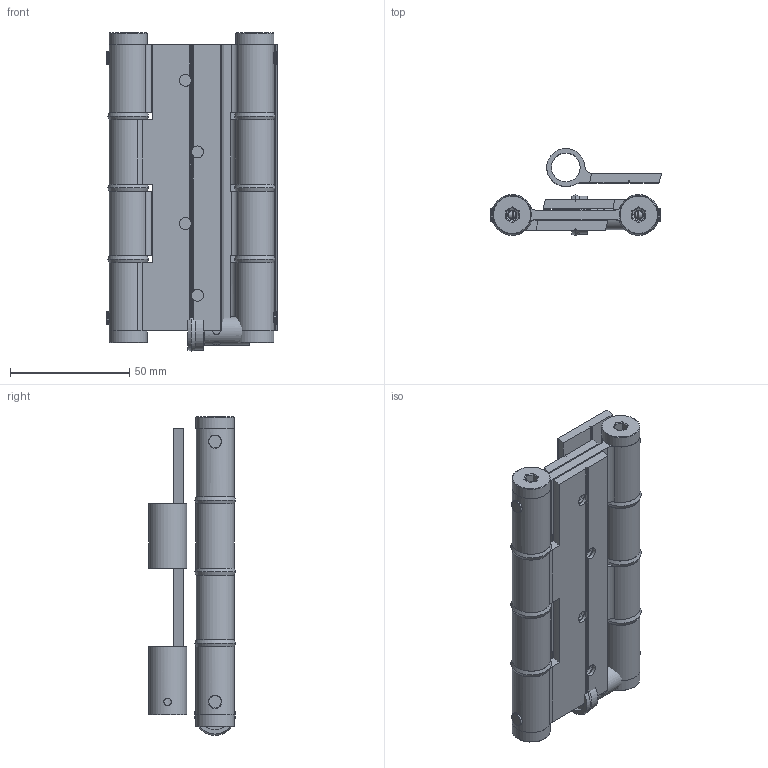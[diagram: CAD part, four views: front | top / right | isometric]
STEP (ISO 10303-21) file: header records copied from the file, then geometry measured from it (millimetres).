
FILE_DESCRIPTION( ( 'Unknown' ), '1' );
FILE_NAME( 'N:/HoKon Zeichnungen/_Kataloge Fremd/Justor/_Produkte Justor/717.002.0.0 Conjunt Frontissa DA 120/158.5414.01-06. DA 120.stp', 'Unknown', ( 'Unknown' ), ( 'Unknown' ), 'PSStep 14.0', 'Unknown', ' ' );
FILE_SCHEMA( ( 'AUTOMOTIVE_DESIGN { 1 0 10303 214 1 1 1 1 }' ) );
Length unit declared in the file: millimetre
Products named in the file (7): Assem1; 054.021.0.1 55406 Pala DA Central 120; 054.022.0.2 55407 Pala DA Lateral 120; 059.010.0.2 76305 Volandera nylon 16x12x3; 057.029.0.2 76327 Tap Frontissa Cec; 057.028.0.0 55719 Tap Frontissa -Foradat-; 057.020.0.2 Passador Frontisses 3 x 9.5
Bounding box: 71.47 x 36.44 x 133.55 mm (x, y, z)
Volume: 128825.5 mm3; surface area: 93581.9 mm2
Topology: 23 solids, 23 shells, 561 faces, 1464 edges, 907 vertices
Faces by surface type: cylinder 258, plane 205, cone 64, sphere 24, torus 10
Full cylindrical faces by diameter (mm): 2.5 x5, 3 x8, 3.1 x25, 3.6 x6, 5 x12, 5.5 x5, 8 x12, 11.6 x6, 12 x6, 12.05 x14, 12.361 x7, 16 x6
Entity records: 7762 total; most frequent: CARTESIAN_POINT 1818, DIRECTION 956, ORIENTED_EDGE 812, EDGE_CURVE 406, AXIS2_PLACEMENT_3D 391, VERTEX_POINT 285, EDGE_LOOP 279, FACE_OUTER_BOUND 223
